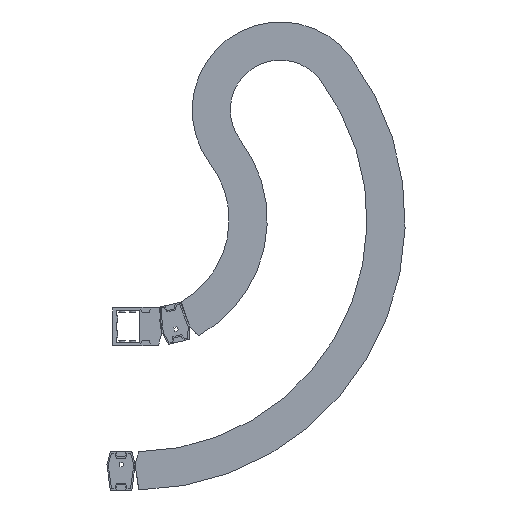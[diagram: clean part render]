
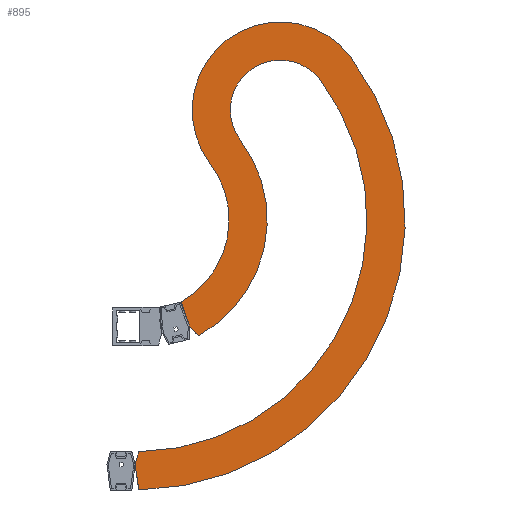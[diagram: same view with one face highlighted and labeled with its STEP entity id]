
A CAD part, front view. The second image highlights one B-rep face of the part: STEP entity #895.
In plain terms, the highlighted planar face has unit normal (0, -1, 0).
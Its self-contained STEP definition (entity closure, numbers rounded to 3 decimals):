
#895 = ADVANCED_FACE( '', ( #1892 ), #1893, .F. );
#1892 = FACE_OUTER_BOUND( '', #2998, .T. );
#1893 = PLANE( '', #2999 );
#2998 = EDGE_LOOP( '', ( #5570, #5571, #5572, #5573, #5574, #5575, #5576, #5577, #5578, #5579 ) );
#2999 = AXIS2_PLACEMENT_3D( '', #5580, #5581, #5582 );
#5570 = ORIENTED_EDGE( '', *, *, #7238, .F. );
#5571 = ORIENTED_EDGE( '', *, *, #7885, .F. );
#5572 = ORIENTED_EDGE( '', *, *, #7886, .F. );
#5573 = ORIENTED_EDGE( '', *, *, #7137, .T. );
#5574 = ORIENTED_EDGE( '', *, *, #7887, .F. );
#5575 = ORIENTED_EDGE( '', *, *, #7288, .F. );
#5576 = ORIENTED_EDGE( '', *, *, #7596, .F. );
#5577 = ORIENTED_EDGE( '', *, *, #7888, .T. );
#5578 = ORIENTED_EDGE( '', *, *, #7889, .T. );
#5579 = ORIENTED_EDGE( '', *, *, #7642, .F. );
#5580 = CARTESIAN_POINT( '', ( 0., -76.5, 0. ) );
#5581 = DIRECTION( '', ( 0., 1., 0. ) );
#5582 = DIRECTION( '', ( 0., 0., 1. ) );
#7137 = EDGE_CURVE( '', #8757, #8758, #8759, .T. );
#7238 = EDGE_CURVE( '', #8925, #8927, #8928, .T. );
#7288 = EDGE_CURVE( '', #9004, #9006, #9007, .T. );
#7596 = EDGE_CURVE( '', #9485, #9004, #9486, .T. );
#7642 = EDGE_CURVE( '', #8927, #9550, #9551, .T. );
#7885 = EDGE_CURVE( '', #9875, #8925, #9876, .T. );
#7886 = EDGE_CURVE( '', #8757, #9875, #9877, .T. );
#7887 = EDGE_CURVE( '', #9006, #8758, #9878, .T. );
#7888 = EDGE_CURVE( '', #9485, #9879, #9880, .T. );
#7889 = EDGE_CURVE( '', #9879, #9550, #9881, .T. );
#8757 = VERTEX_POINT( '', #11024 );
#8758 = VERTEX_POINT( '', #11025 );
#8759 = CIRCLE( '', #11026, 160. );
#8925 = VERTEX_POINT( '', #11253 );
#8927 = VERTEX_POINT( '', #11256 );
#8928 = LINE( '', #11257, #11258 );
#9004 = VERTEX_POINT( '', #11365 );
#9006 = VERTEX_POINT( '', #11368 );
#9007 = LINE( '', #11369, #11370 );
#9485 = VERTEX_POINT( '', #12049 );
#9486 = CIRCLE( '', #12050, 225. );
#9550 = VERTEX_POINT( '', #12142 );
#9551 = LINE( '', #12143, #12144 );
#9875 = VERTEX_POINT( '', #12616 );
#9876 = CIRCLE( '', #12617, 460. );
#9877 = CIRCLE( '', #12618, 150. );
#9878 = LINE( '', #12619, #12620 );
#9879 = VERTEX_POINT( '', #12621 );
#9880 = CIRCLE( '', #12622, 85. );
#9881 = CIRCLE( '', #12623, 395. );
#11024 = CARTESIAN_POINT( '', ( 127.544, -76.5, 96.604 ) );
#11025 = CARTESIAN_POINT( '', ( 78.444, -76.5, -139.451 ) );
#11026 = AXIS2_PLACEMENT_3D( '', #13376, #13377, #13378 );
#11253 = CARTESIAN_POINT( '', ( 6.293, -76.5, -459.957 ) );
#11256 = CARTESIAN_POINT( '', ( 0., -76.5, -417. ) );
#11257 = CARTESIAN_POINT( '', ( 6.293, -76.5, -459.957 ) );
#11258 = VECTOR( '', #13498, 1000. );
#11365 = CARTESIAN_POINT( '', ( 107.844, -76.5, -197.471 ) );
#11368 = CARTESIAN_POINT( '', ( 92.462, -76.5, -180.72 ) );
#11369 = CARTESIAN_POINT( '', ( 107.844, -76.5, -197.471 ) );
#11370 = VECTOR( '', #13552, 1000. );
#12049 = CARTESIAN_POINT( '', ( 179.359, -76.5, 135.85 ) );
#12050 = AXIS2_PLACEMENT_3D( '', #13901, #13902, #13903 );
#12142 = CARTESIAN_POINT( '', ( 6.1, -76.5, -394.953 ) );
#12143 = CARTESIAN_POINT( '', ( 0., -76.5, -417. ) );
#12144 = VECTOR( '', #13944, 1000. );
#12616 = CARTESIAN_POINT( '', ( 366.69, -76.5, 277.738 ) );
#12617 = AXIS2_PLACEMENT_3D( '', #14171, #14172, #14173 );
#12618 = AXIS2_PLACEMENT_3D( '', #14174, #14175, #14176 );
#12619 = CARTESIAN_POINT( '', ( 92.462, -76.5, -180.72 ) );
#12620 = VECTOR( '', #14177, 1000. );
#12621 = CARTESIAN_POINT( '', ( 314.875, -76.5, 238.492 ) );
#12622 = AXIS2_PLACEMENT_3D( '', #14178, #14179, #14180 );
#12623 = AXIS2_PLACEMENT_3D( '', #14181, #14182, #14183 );
#13376 = CARTESIAN_POINT( '', ( 0., -76.5, 0. ) );
#13377 = DIRECTION( '', ( 0., 1., 0. ) );
#13378 = DIRECTION( '', ( 1., 0., 0. ) );
#13498 = DIRECTION( '', ( -0.145, 0., 0.989 ) );
#13552 = DIRECTION( '', ( -0.676, 0., 0.737 ) );
#13901 = CARTESIAN_POINT( '', ( 0., -76.5, 0. ) );
#13902 = DIRECTION( '', ( 0., 1., 0. ) );
#13903 = DIRECTION( '', ( 1., 0., 0. ) );
#13944 = DIRECTION( '', ( 0.267, 0., 0.964 ) );
#14171 = CARTESIAN_POINT( '', ( 0., -76.5, 0. ) );
#14172 = DIRECTION( '', ( 0., 1., 0. ) );
#14173 = DIRECTION( '', ( 1., 0., 0. ) );
#14174 = CARTESIAN_POINT( '', ( 247.117, -76.5, 187.171 ) );
#14175 = DIRECTION( '', ( 0., 1., 0. ) );
#14176 = DIRECTION( '', ( 1., 0., 0. ) );
#14177 = DIRECTION( '', ( -0.322, 0., 0.947 ) );
#14178 = CARTESIAN_POINT( '', ( 247.117, -76.5, 187.171 ) );
#14179 = DIRECTION( '', ( 0., 1., 0. ) );
#14180 = DIRECTION( '', ( 1., 0., 0. ) );
#14181 = CARTESIAN_POINT( '', ( 0., -76.5, 0. ) );
#14182 = DIRECTION( '', ( 0., 1., 0. ) );
#14183 = DIRECTION( '', ( 1., 0., 0. ) );
